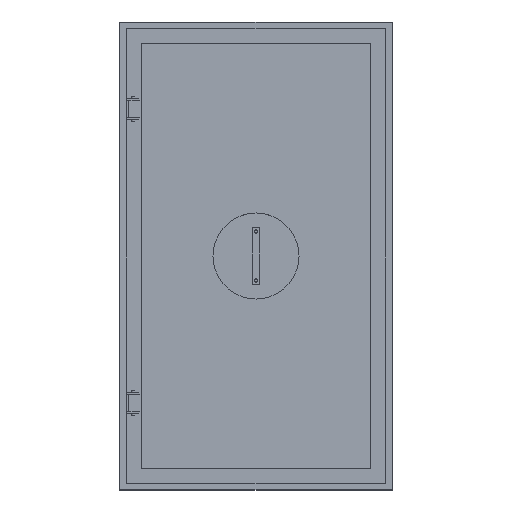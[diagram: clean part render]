
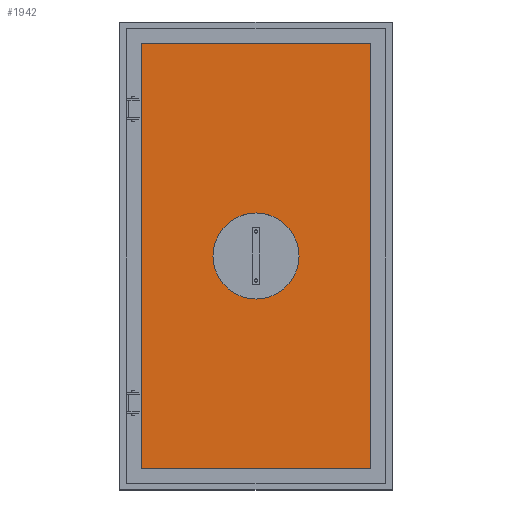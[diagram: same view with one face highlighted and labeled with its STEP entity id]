
A CAD part, top view. The second image highlights one B-rep face of the part: STEP entity #1942.
In plain terms, the highlighted planar face has unit normal (0, 0, 1).
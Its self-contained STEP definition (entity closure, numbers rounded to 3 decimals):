
#200=DIRECTION('',(0.,-1.,0.));
#201=VECTOR('',#200,2172.);
#202=CARTESIAN_POINT('',(-586.,1086.,-16.));
#203=LINE('',#202,#201);
#204=DIRECTION('',(-1.,0.,0.));
#205=VECTOR('',#204,1172.);
#206=CARTESIAN_POINT('',(586.,1086.,-16.));
#207=LINE('',#206,#205);
#208=DIRECTION('',(0.,1.,0.));
#209=VECTOR('',#208,2172.);
#210=CARTESIAN_POINT('',(586.,-1086.,-16.));
#211=LINE('',#210,#209);
#212=DIRECTION('',(1.,0.,0.));
#213=VECTOR('',#212,1172.);
#214=CARTESIAN_POINT('',(-586.,-1086.,-16.));
#215=LINE('',#214,#213);
#216=CARTESIAN_POINT('',(0.,0.,-16.));
#217=DIRECTION('',(0.,0.,1.));
#218=DIRECTION('',(1.,0.,0.));
#219=AXIS2_PLACEMENT_3D('',#216,#217,#218);
#221=CARTESIAN_POINT('',(0.,0.,-16.));
#222=DIRECTION('',(0.,0.,1.));
#223=DIRECTION('',(-1.,0.,0.));
#224=AXIS2_PLACEMENT_3D('',#221,#222,#223);
#1396=CARTESIAN_POINT('',(-586.,1086.,-16.));
#1397=CARTESIAN_POINT('',(-586.,-1086.,-16.));
#1398=VERTEX_POINT('',#1396);
#1399=VERTEX_POINT('',#1397);
#1400=CARTESIAN_POINT('',(586.,-1086.,-16.));
#1401=VERTEX_POINT('',#1400);
#1402=CARTESIAN_POINT('',(586.,1086.,-16.));
#1403=VERTEX_POINT('',#1402);
#1694=CARTESIAN_POINT('',(220.,0.,-16.));
#1695=CARTESIAN_POINT('',(-220.,0.,-16.));
#1696=VERTEX_POINT('',#1694);
#1697=VERTEX_POINT('',#1695);
#1923=CARTESIAN_POINT('',(0.,0.,-16.));
#1924=DIRECTION('',(0.,0.,1.));
#1925=DIRECTION('',(1.,0.,0.));
#1926=AXIS2_PLACEMENT_3D('',#1923,#1924,#1925);
#1927=PLANE('',#1926);
#1928=ORIENTED_EDGE('',*,*,#1838,.F.);
#1930=ORIENTED_EDGE('',*,*,#1929,.F.);
#1932=ORIENTED_EDGE('',*,*,#1931,.F.);
#1933=ORIENTED_EDGE('',*,*,#1909,.F.);
#1934=EDGE_LOOP('',(#1928,#1930,#1932,#1933));
#1935=FACE_OUTER_BOUND('',#1934,.F.);
#1937=ORIENTED_EDGE('',*,*,#1936,.T.);
#1939=ORIENTED_EDGE('',*,*,#1938,.T.);
#1940=EDGE_LOOP('',(#1937,#1939));
#1941=FACE_BOUND('',#1940,.F.);
#220=CIRCLE('',#219,220.);
#225=CIRCLE('',#224,220.);
#1838=EDGE_CURVE('',#1398,#1399,#203,.T.);
#1909=EDGE_CURVE('',#1399,#1401,#215,.T.);
#1929=EDGE_CURVE('',#1403,#1398,#207,.T.);
#1931=EDGE_CURVE('',#1401,#1403,#211,.T.);
#1936=EDGE_CURVE('',#1696,#1697,#220,.T.);
#1938=EDGE_CURVE('',#1697,#1696,#225,.T.);
#1942=ADVANCED_FACE('',(#1935,#1941),#1927,.T.);
